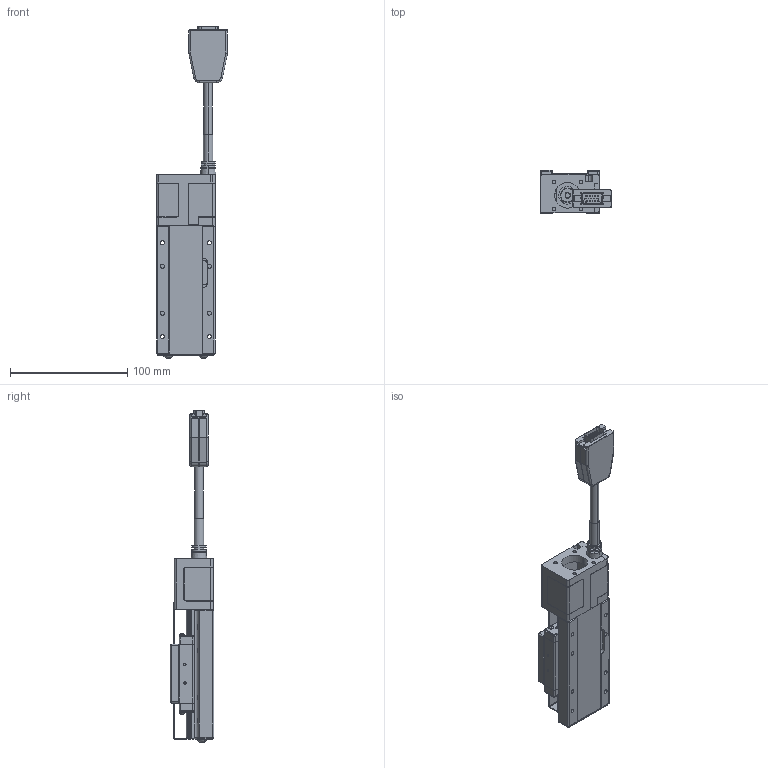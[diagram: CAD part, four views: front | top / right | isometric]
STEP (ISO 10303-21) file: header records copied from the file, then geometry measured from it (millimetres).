
FILE_DESCRIPTION (( 'STEP AP203' ), '1' );
FILE_NAME ('CXC5030-S2?N(28框無馬達).', '2024-01-05T02:38:47', ( '' ), ( '' ), 'SwSTEP 2.0', 'SolidWorks 2019', '' );
FILE_SCHEMA (( 'CONFIG_CONTROL_DESIGN' ));
Length unit declared in the file: millimetre
Products named in the file (9): CXC5030-S2OPAN-303_50; CXC50-102-10; SC03B008_SUS304(鍍鋅黑); SG02B004_SCM435(化鎳); SD04B006_SD04B006-SCM435(化鎳); Group4^CXC5030-S2?N(28框無馬達)_defeature_GMT; CXC5030-S2?N(28框無馬達); Group3^CXC5030-S2?N(28框無馬達)_defeature_GMT; CXN5030-02(2023新版)-1^CXC5030-S2?N(28框無馬達)_defeature_GMT
Assembly tree (14 placements, depth 2):
  CXC5030-S2?N(28框無馬達)
    Group3^CXC5030-S2?N(28框無馬達)_defeature_GMT
    Group4^CXC5030-S2?N(28框無馬達)_defeature_GMT
    CXN5030-02(2023新版)-1^CXC5030-S2?N(28框無馬達)_defeature_GMT
    CXC50-102-10  x2
    SC03B008_SUS304(鍍鋅黑)  x4
    SD04B006_SD04B006-SCM435(化鎳)  x2
    SG02B004_SCM435(化鎳)  x2
    CXC5030-S2OPAN-303_50
Bounding box: 60.5 x 37 x 283.06 mm (x, y, z)
Volume: 44075.4 mm3; surface area: 89578.9 mm2
Topology: 15 solids, 18 shells, 3579 faces, 8990 edges, 5375 vertices
Faces by surface type: plane 1584, cylinder 1092, bspline 312, torus 249, cone 180, sphere 162
Entity records: 110412 total; most frequent: CARTESIAN_POINT 30503, ORIENTED_EDGE 16566, DIRECTION 16444, EDGE_CURVE 8283, AXIS2_PLACEMENT_3D 5826, VERTEX_POINT 5051, LINE 4792, VECTOR 4792
